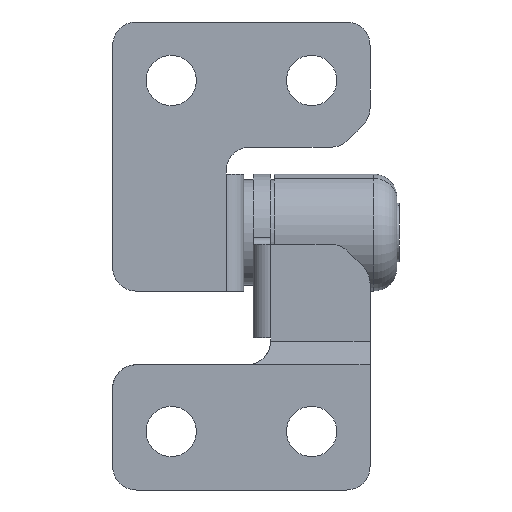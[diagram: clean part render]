
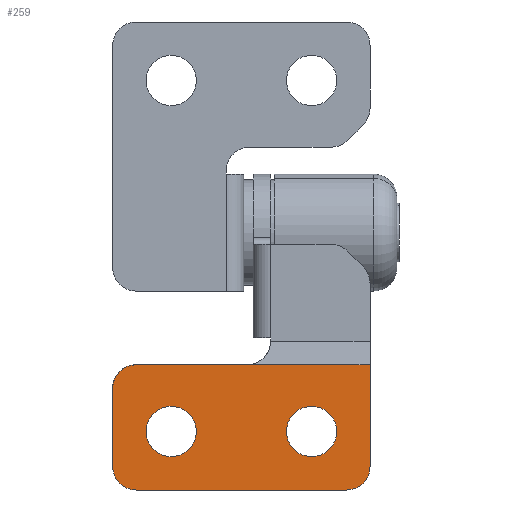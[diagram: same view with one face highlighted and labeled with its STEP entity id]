
A CAD part, front view. The second image highlights one B-rep face of the part: STEP entity #259.
In plain terms, the highlighted planar face has unit normal (0, -1, 0).
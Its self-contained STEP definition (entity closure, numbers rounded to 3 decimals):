
#19 = AXIS2_PLACEMENT_3D ( 'NONE', #3625, #3626, #3627 ) ;
#21 = AXIS2_PLACEMENT_3D ( 'NONE', #3634, #3635, #3636 ) ;
#31 = AXIS2_PLACEMENT_3D ( 'NONE', #3711, #3712, #3713 ) ;
#32 = AXIS2_PLACEMENT_3D ( 'NONE', #3716, #3717, #3718 ) ;
#33 = AXIS2_PLACEMENT_3D ( 'NONE', #3721, #3722, #3723 ) ;
#34 = AXIS2_PLACEMENT_3D ( 'NONE', #3725, #3726, #3727 ) ;
#35 = AXIS2_PLACEMENT_3D ( 'NONE', #3730, #3731, #3732 ) ;
#259 = ADVANCED_FACE ( 'NONE', ( #2520, #2522, #2509 ), #1865, .F. ) ;
#484 = EDGE_CURVE ( 'NONE', #1764, #1777, #2779, .T. ) ;
#488 = EDGE_CURVE ( 'NONE', #1803, #1804, #2793, .T. ) ;
#519 = EDGE_CURVE ( 'NONE', #3275, #1728, #2839, .T. ) ;
#521 = EDGE_CURVE ( 'NONE', #1777, #1764, #2849, .T. ) ;
#522 = EDGE_CURVE ( 'NONE', #1804, #1803, #2851, .T. ) ;
#523 = EDGE_CURVE ( 'NONE', #1728, #1709, #2852, .T. ) ;
#524 = EDGE_CURVE ( 'NONE', #1709, #3274, #2853, .T. ) ;
#525 = EDGE_CURVE ( 'NONE', #3274, #3257, #2855, .T. ) ;
#526 = EDGE_CURVE ( 'NONE', #3257, #3276, #2856, .T. ) ;
#527 = EDGE_CURVE ( 'NONE', #3310, #3276, #2858, .T. ) ;
#528 = EDGE_CURVE ( 'NONE', #3310, #3305, #2848, .T. ) ;
#529 = EDGE_CURVE ( 'NONE', #3275, #3305, #2861, .T. ) ;
#948 = ORIENTED_EDGE ( 'NONE', *, *, #521, .T. ) ;
#949 = ORIENTED_EDGE ( 'NONE', *, *, #484, .T. ) ;
#950 = ORIENTED_EDGE ( 'NONE', *, *, #522, .T. ) ;
#951 = ORIENTED_EDGE ( 'NONE', *, *, #488, .T. ) ;
#952 = ORIENTED_EDGE ( 'NONE', *, *, #523, .T. ) ;
#953 = ORIENTED_EDGE ( 'NONE', *, *, #524, .T. ) ;
#954 = ORIENTED_EDGE ( 'NONE', *, *, #525, .T. ) ;
#955 = ORIENTED_EDGE ( 'NONE', *, *, #526, .T. ) ;
#956 = ORIENTED_EDGE ( 'NONE', *, *, #527, .F. ) ;
#957 = ORIENTED_EDGE ( 'NONE', *, *, #528, .T. ) ;
#958 = ORIENTED_EDGE ( 'NONE', *, *, #529, .F. ) ;
#959 = ORIENTED_EDGE ( 'NONE', *, *, #519, .T. ) ;
#1115 = EDGE_LOOP ( 'NONE', ( #952, #953, #954, #955, #956, #957, #958, #959 ) ) ;
#1129 = EDGE_LOOP ( 'NONE', ( #950, #951 ) ) ;
#1134 = EDGE_LOOP ( 'NONE', ( #948, #949 ) ) ;
#1709 = VERTEX_POINT ( 'NONE', #3838 ) ;
#1728 = VERTEX_POINT ( 'NONE', #3867 ) ;
#1764 = VERTEX_POINT ( 'NONE', #3903 ) ;
#1777 = VERTEX_POINT ( 'NONE', #3916 ) ;
#1803 = VERTEX_POINT ( 'NONE', #3942 ) ;
#1804 = VERTEX_POINT ( 'NONE', #3943 ) ;
#1860 = DIRECTION ( 'NONE',  ( 0., 1., 0. ) ) ;
#1864 = CARTESIAN_POINT ( 'NONE',  ( 20., 0., -11.3 ) ) ;
#1865 = PLANE ( 'NONE',  #2209 ) ;
#1866 = DIRECTION ( 'NONE',  ( 0., 0., 1. ) ) ;
#2209 = AXIS2_PLACEMENT_3D ( 'NONE', #1864, #1860, #1866 ) ;
#2509 = FACE_OUTER_BOUND ( 'NONE', #1115, .T. ) ;
#2520 = FACE_BOUND ( 'NONE', #1134, .T. ) ;
#2522 = FACE_BOUND ( 'NONE', #1129, .T. ) ;
#2779 = CIRCLE ( 'NONE', #19, 2.15 ) ;
#2793 = CIRCLE ( 'NONE', #21, 2.15 ) ;
#2839 = LINE ( 'NONE', #3706, #2846 ) ;
#2846 = VECTOR ( 'NONE', #3707, 1000. ) ;
#2848 = CIRCLE ( 'NONE', #35, 2. ) ;
#2849 = CIRCLE ( 'NONE', #31, 2.15 ) ;
#2851 = CIRCLE ( 'NONE', #32, 2.15 ) ;
#2852 = LINE ( 'NONE', #3709, #2854 ) ;
#2853 = CIRCLE ( 'NONE', #33, 2. ) ;
#2854 = VECTOR ( 'NONE', #3710, 1000. ) ;
#2855 = LINE ( 'NONE', #3714, #2857 ) ;
#2856 = CIRCLE ( 'NONE', #34, 2. ) ;
#2857 = VECTOR ( 'NONE', #3715, 1000. ) ;
#2858 = LINE ( 'NONE', #3719, #2860 ) ;
#2860 = VECTOR ( 'NONE', #3720, 1000. ) ;
#2861 = LINE ( 'NONE', #3728, #2863 ) ;
#2863 = VECTOR ( 'NONE', #3724, 1000. ) ;
#3125 = CARTESIAN_POINT ( 'NONE',  ( 20., 0., -20. ) ) ;
#3130 = CARTESIAN_POINT ( 'NONE',  ( 18., 0., -22. ) ) ;
#3257 = VERTEX_POINT ( 'NONE', #4228 ) ;
#3274 = VERTEX_POINT ( 'NONE', #4244 ) ;
#3275 = VERTEX_POINT ( 'NONE', #4245 ) ;
#3276 = VERTEX_POINT ( 'NONE', #4246 ) ;
#3305 = VERTEX_POINT ( 'NONE', #3125 ) ;
#3310 = VERTEX_POINT ( 'NONE', #3130 ) ;
#3625 = CARTESIAN_POINT ( 'NONE',  ( 15., 0., -17. ) ) ;
#3626 = DIRECTION ( 'NONE',  ( 0., 1., 0. ) ) ;
#3627 = DIRECTION ( 'NONE',  ( 0., 0., 1. ) ) ;
#3634 = CARTESIAN_POINT ( 'NONE',  ( 3., 0., -17. ) ) ;
#3635 = DIRECTION ( 'NONE',  ( 0., 1., 0. ) ) ;
#3636 = DIRECTION ( 'NONE',  ( 0., 0., 1. ) ) ;
#3706 = CARTESIAN_POINT ( 'NONE',  ( 20., 0., -11.3 ) ) ;
#3707 = DIRECTION ( 'NONE',  ( -1., 0., 0. ) ) ;
#3709 = CARTESIAN_POINT ( 'NONE',  ( -2., 0., -11.3 ) ) ;
#3710 = DIRECTION ( 'NONE',  ( -1., 0., 0. ) ) ;
#3711 = CARTESIAN_POINT ( 'NONE',  ( 15., 0., -17. ) ) ;
#3712 = DIRECTION ( 'NONE',  ( 0., 1., 0. ) ) ;
#3713 = DIRECTION ( 'NONE',  ( 0., 0., 1. ) ) ;
#3714 = CARTESIAN_POINT ( 'NONE',  ( -2., 0., -11.3 ) ) ;
#3715 = DIRECTION ( 'NONE',  ( 0., 0., -1. ) ) ;
#3716 = CARTESIAN_POINT ( 'NONE',  ( 3., 0., -17. ) ) ;
#3717 = DIRECTION ( 'NONE',  ( 0., 1., 0. ) ) ;
#3718 = DIRECTION ( 'NONE',  ( 0., 0., 1. ) ) ;
#3719 = CARTESIAN_POINT ( 'NONE',  ( 20., 0., -22. ) ) ;
#3720 = DIRECTION ( 'NONE',  ( -1., 0., 0. ) ) ;
#3721 = CARTESIAN_POINT ( 'NONE',  ( 0., 0., -13.3 ) ) ;
#3722 = DIRECTION ( 'NONE',  ( 0., -1., 0. ) ) ;
#3723 = DIRECTION ( 'NONE',  ( 0., 0., 1. ) ) ;
#3724 = DIRECTION ( 'NONE',  ( 0., 0., -1. ) ) ;
#3725 = CARTESIAN_POINT ( 'NONE',  ( 0., 0., -20. ) ) ;
#3726 = DIRECTION ( 'NONE',  ( 0., -1., 0. ) ) ;
#3727 = DIRECTION ( 'NONE',  ( 0., 0., 1. ) ) ;
#3728 = CARTESIAN_POINT ( 'NONE',  ( 20., 0., -11.3 ) ) ;
#3730 = CARTESIAN_POINT ( 'NONE',  ( 18., 0., -20. ) ) ;
#3731 = DIRECTION ( 'NONE',  ( 0., -1., 0. ) ) ;
#3732 = DIRECTION ( 'NONE',  ( 0., 0., 1. ) ) ;
#3838 = CARTESIAN_POINT ( 'NONE',  ( 0., 0., -11.3 ) ) ;
#3867 = CARTESIAN_POINT ( 'NONE',  ( 9.5, 0., -11.3 ) ) ;
#3903 = CARTESIAN_POINT ( 'NONE',  ( 15., 0., -19.15 ) ) ;
#3916 = CARTESIAN_POINT ( 'NONE',  ( 15., 0., -14.85 ) ) ;
#3942 = CARTESIAN_POINT ( 'NONE',  ( 3., 0., -19.15 ) ) ;
#3943 = CARTESIAN_POINT ( 'NONE',  ( 3., 0., -14.85 ) ) ;
#4228 = CARTESIAN_POINT ( 'NONE',  ( -2., 0., -20. ) ) ;
#4244 = CARTESIAN_POINT ( 'NONE',  ( -2., 0., -13.3 ) ) ;
#4245 = CARTESIAN_POINT ( 'NONE',  ( 20., 0., -11.3 ) ) ;
#4246 = CARTESIAN_POINT ( 'NONE',  ( 0., 0., -22. ) ) ;
